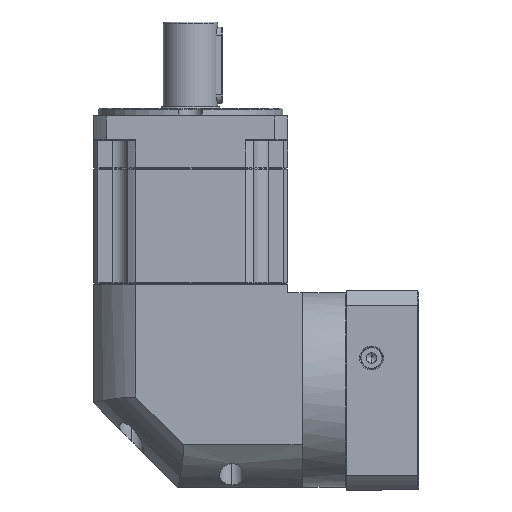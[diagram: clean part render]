
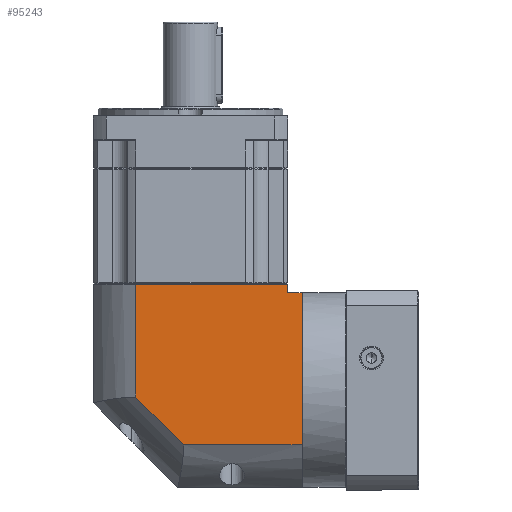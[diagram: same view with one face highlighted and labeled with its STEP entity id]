
A CAD part, left-side view. The second image highlights one B-rep face of the part: STEP entity #95243.
In plain terms, the highlighted planar face has unit normal (-1, 0, 0).
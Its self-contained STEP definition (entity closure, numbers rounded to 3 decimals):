
#2200 = ORIENTED_EDGE ( 'NONE', *, *, #34022, .F. ) ;
#4229 = AXIS2_PLACEMENT_3D ( 'NONE', #6751, #100601, #20315 ) ;
#6751 = CARTESIAN_POINT ( 'NONE',  ( -280.587, 52.629, 75.032 ) ) ;
#7522 = VECTOR ( 'NONE', #30397, 1000. ) ;
#10388 = EDGE_CURVE ( 'NONE', #56274, #51038, #156242, .T. ) ;
#11703 = FACE_OUTER_BOUND ( 'NONE', #108601, .T. ) ;
#13855 = CARTESIAN_POINT ( 'NONE',  ( -280.587, -62.371, 63.532 ) ) ;
#19040 = LINE ( 'NONE', #115644, #121834 ) ;
#20315 = DIRECTION ( 'NONE',  ( 0., 1., 0. ) ) ;
#26076 = CARTESIAN_POINT ( 'NONE',  ( -280.587, -0.81, -26.368 ) ) ;
#30397 = DIRECTION ( 'NONE',  ( 0., 0., -1. ) ) ;
#33046 = DIRECTION ( 'NONE',  ( 0., 0., 1. ) ) ;
#34022 = EDGE_CURVE ( 'NONE', #58814, #136305, #19040, .T. ) ;
#35341 = DIRECTION ( 'NONE',  ( 0., -1., 0. ) ) ;
#46148 = VERTEX_POINT ( 'NONE', #131026 ) ;
#47331 = EDGE_CURVE ( 'NONE', #46148, #90707, #137989, .T. ) ;
#49090 = EDGE_CURVE ( 'NONE', #90707, #136305, #160403, .T. ) ;
#49497 = DIRECTION ( 'NONE',  ( 0., 0., 1. ) ) ;
#51038 = VERTEX_POINT ( 'NONE', #54628 ) ;
#53264 = VECTOR ( 'NONE', #33046, 1000. ) ;
#54628 = CARTESIAN_POINT ( 'NONE',  ( -280.587, 27.528, 1.971 ) ) ;
#54821 = CARTESIAN_POINT ( 'NONE',  ( -280.587, -0.81, -26.368 ) ) ;
#55951 = ORIENTED_EDGE ( 'NONE', *, *, #10388, .F. ) ;
#56274 = VERTEX_POINT ( 'NONE', #26076 ) ;
#58814 = VERTEX_POINT ( 'NONE', #113595 ) ;
#66648 = VECTOR ( 'NONE', #170338, 1000. ) ;
#68261 = ORIENTED_EDGE ( 'NONE', *, *, #47331, .T. ) ;
#68868 = DIRECTION ( 'NONE',  ( 0., 0.707, 0.707 ) ) ;
#70827 = CARTESIAN_POINT ( 'NONE',  ( -280.587, -70.771, 75.032 ) ) ;
#72923 = CARTESIAN_POINT ( 'NONE',  ( -280.587, -62.371, -51.468 ) ) ;
#76758 = CARTESIAN_POINT ( 'NONE',  ( -280.587, -70.771, -26.368 ) ) ;
#81311 = EDGE_CURVE ( 'NONE', #114034, #56274, #102360, .T. ) ;
#86580 = PLANE ( 'NONE',  #4229 ) ;
#90707 = VERTEX_POINT ( 'NONE', #163553 ) ;
#95243 = ADVANCED_FACE ( 'NONE', ( #11703 ), #86580, .F. ) ;
#97234 = LINE ( 'NONE', #129879, #168754 ) ;
#100601 = DIRECTION ( 'NONE',  ( 1., 0., 0. ) ) ;
#101890 = ORIENTED_EDGE ( 'NONE', *, *, #105156, .F. ) ;
#102360 = LINE ( 'NONE', #156840, #66648 ) ;
#105156 = EDGE_CURVE ( 'NONE', #51038, #58814, #97234, .T. ) ;
#108601 = EDGE_LOOP ( 'NONE', ( #101890, #55951, #146551, #174266, #68261, #121257, #2200 ) ) ;
#113595 = CARTESIAN_POINT ( 'NONE',  ( -280.587, 27.528, 68.532 ) ) ;
#114034 = VERTEX_POINT ( 'NONE', #76758 ) ;
#114588 = LINE ( 'NONE', #70827, #7522 ) ;
#115644 = CARTESIAN_POINT ( 'NONE',  ( -280.587, 52.629, 68.532 ) ) ;
#120379 = VECTOR ( 'NONE', #68868, 1000. ) ;
#121257 = ORIENTED_EDGE ( 'NONE', *, *, #49090, .T. ) ;
#121834 = VECTOR ( 'NONE', #35341, 1000. ) ;
#129879 = CARTESIAN_POINT ( 'NONE',  ( -280.587, 27.528, 75.032 ) ) ;
#131026 = CARTESIAN_POINT ( 'NONE',  ( -280.587, -70.771, 63.532 ) ) ;
#132342 = EDGE_CURVE ( 'NONE', #46148, #114034, #114588, .T. ) ;
#133722 = VECTOR ( 'NONE', #147654, 1000. ) ;
#136305 = VERTEX_POINT ( 'NONE', #151330 ) ;
#137989 = LINE ( 'NONE', #13855, #133722 ) ;
#146551 = ORIENTED_EDGE ( 'NONE', *, *, #81311, .F. ) ;
#147654 = DIRECTION ( 'NONE',  ( 0., 1., 0. ) ) ;
#151330 = CARTESIAN_POINT ( 'NONE',  ( -280.587, -62.371, 68.532 ) ) ;
#156242 = LINE ( 'NONE', #54821, #120379 ) ;
#156840 = CARTESIAN_POINT ( 'NONE',  ( -280.587, 52.629, -26.368 ) ) ;
#160403 = LINE ( 'NONE', #72923, #53264 ) ;
#163553 = CARTESIAN_POINT ( 'NONE',  ( -280.587, -62.371, 63.532 ) ) ;
#168754 = VECTOR ( 'NONE', #49497, 1000. ) ;
#170338 = DIRECTION ( 'NONE',  ( 0., 1., 0. ) ) ;
#174266 = ORIENTED_EDGE ( 'NONE', *, *, #132342, .F. ) ;
